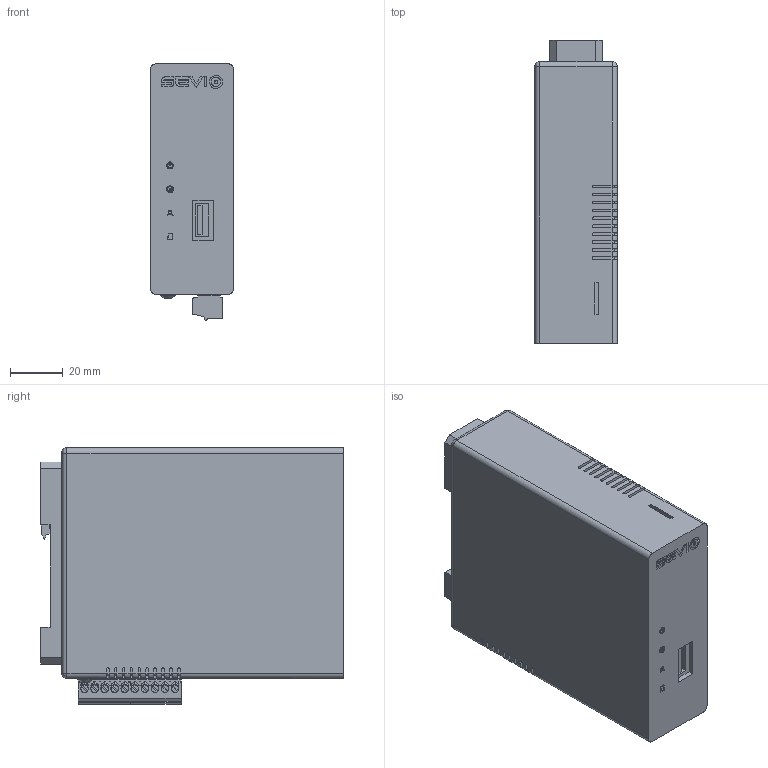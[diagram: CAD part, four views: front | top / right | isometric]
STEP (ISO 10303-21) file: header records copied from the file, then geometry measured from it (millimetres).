
FILE_DESCRIPTION(/* description */ (''),/* implementation_level */ '2;1');
FILE_NAME(/* name */ 'R9YF94~5',/* time_stamp */ '2024-06-11T13:48:45+02:00',/* author */ (''),/* organization */ (''),/* preprocessor_version */ 'ST-DEVELOPER v16.5',/* originating_system */ '',/* authorisation */ '');
FILE_SCHEMA (('AUTOMOTIVE_DESIGN'));
Length unit declared in the file: millimetre
Products named in the file (1): Document
Bounding box: 31.3 x 114.77 x 97.19 mm (x, y, z)
Volume: 300113.4 mm3; surface area: 36398.5 mm2
Topology: 1 solids, 1 shells, 1112 faces, 3029 edges, 1965 vertices
Faces by surface type: bspline 558, plane 554
Entity records: 46326 total; most frequent: CARTESIAN_POINT 27938, ORIENTED_EDGE 6014, EDGE_CURVE 3007, B_SPLINE_CURVE_WITH_KNOTS 2131, VERTEX_POINT 1965, EDGE_LOOP 1202, ADVANCED_FACE 1112, FACE_OUTER_BOUND 1112
